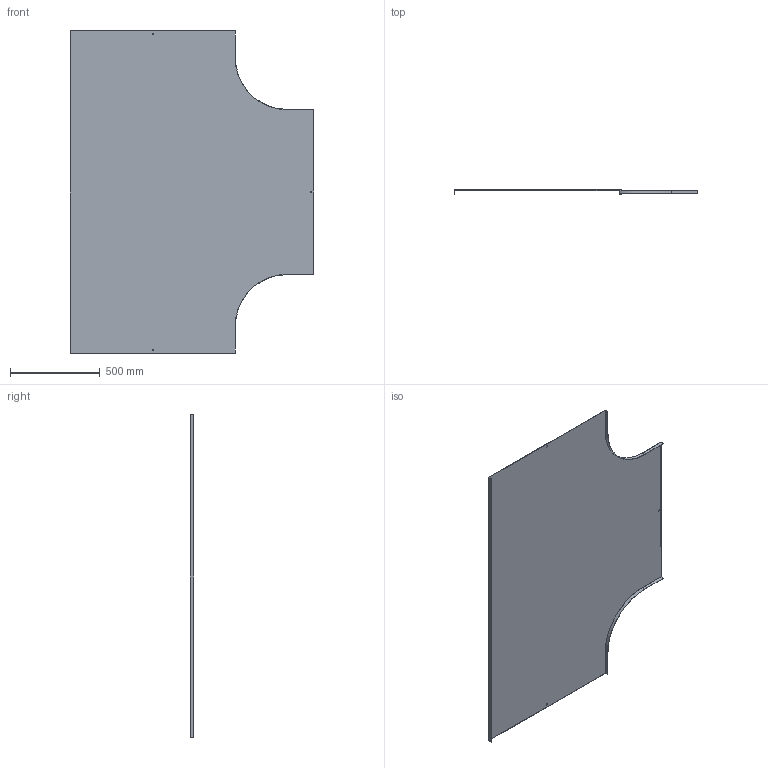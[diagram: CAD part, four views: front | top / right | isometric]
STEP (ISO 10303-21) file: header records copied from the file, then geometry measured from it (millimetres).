
FILE_DESCRIPTION (( 'STEP AP214' ), '1' );
FILE_NAME ('15N3P900.step', '2025-02-21T13:56:03', ( '' ), ( '' ), 'SwSTEP 2.0', 'SolidWorks 2023', '' );
FILE_SCHEMA (( 'AUTOMOTIVE_DESIGN' ));
Length unit declared in the file: millimetre
Products named in the file (1): 15N3P900
Bounding box: 1361.5 x 20 x 1800 mm (x, y, z)
Volume: 3244342 mm3; surface area: 4335208.3 mm2
Topology: 1 solids, 1 shells, 34 faces, 96 edges, 64 vertices
Faces by surface type: plane 30, cylinder 4
Entity records: 1123 total; most frequent: CARTESIAN_POINT 195, ORIENTED_EDGE 192, DIRECTION 174, EDGE_CURVE 96, LINE 88, VECTOR 88, VERTEX_POINT 64, AXIS2_PLACEMENT_3D 43
